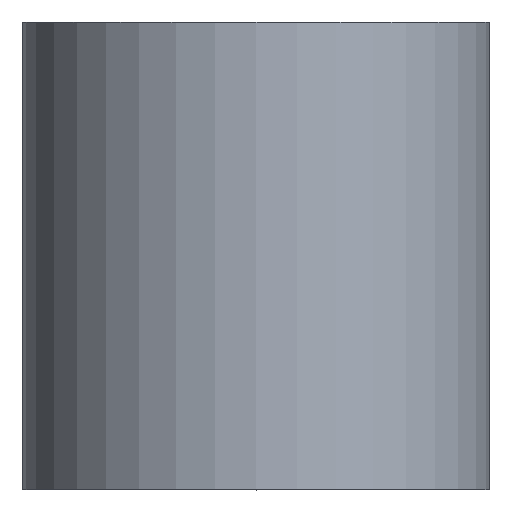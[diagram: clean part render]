
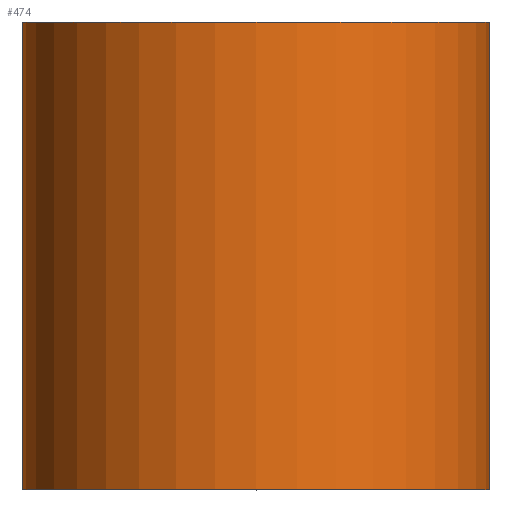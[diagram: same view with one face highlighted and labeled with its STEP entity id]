
A CAD part, top view. The second image highlights one B-rep face of the part: STEP entity #474.
In plain terms, the highlighted cylindrical face has radius 25 mm (diameter 50 mm), a partial arc.
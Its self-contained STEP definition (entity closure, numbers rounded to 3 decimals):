
#24 = LINE ( 'NONE', #859, #103 ) ;
#81 = DIRECTION ( 'NONE',  ( -1., 0., 0. ) ) ;
#103 = VECTOR ( 'NONE', #324, 1000. ) ;
#118 = VERTEX_POINT ( 'NONE', #901 ) ;
#144 = EDGE_CURVE ( 'NONE', #118, #301, #578, .T. ) ;
#154 = FACE_OUTER_BOUND ( 'NONE', #448, .T. ) ;
#165 = CARTESIAN_POINT ( 'NONE',  ( 0., -25., 0. ) ) ;
#220 = CARTESIAN_POINT ( 'NONE',  ( 0., 25., 0. ) ) ;
#279 = ORIENTED_EDGE ( 'NONE', *, *, #294, .T. ) ;
#294 = EDGE_CURVE ( 'NONE', #301, #595, #24, .T. ) ;
#295 = ORIENTED_EDGE ( 'NONE', *, *, #491, .F. ) ;
#300 = DIRECTION ( 'NONE',  ( -1., 0., 0. ) ) ;
#301 = VERTEX_POINT ( 'NONE', #615 ) ;
#321 = CARTESIAN_POINT ( 'NONE',  ( 25., 25., 0. ) ) ;
#324 = DIRECTION ( 'NONE',  ( 0., 1., 0. ) ) ;
#339 = AXIS2_PLACEMENT_3D ( 'NONE', #165, #671, #81 ) ;
#383 = CARTESIAN_POINT ( 'NONE',  ( 0., 0., 0. ) ) ;
#400 = VECTOR ( 'NONE', #804, 1000. ) ;
#411 = ORIENTED_EDGE ( 'NONE', *, *, #144, .T. ) ;
#448 = EDGE_LOOP ( 'NONE', ( #411, #279, #944, #295 ) ) ;
#455 = AXIS2_PLACEMENT_3D ( 'NONE', #383, #604, #508 ) ;
#474 = ADVANCED_FACE ( 'NONE', ( #154 ), #530, .T. ) ;
#491 = EDGE_CURVE ( 'NONE', #118, #668, #736, .T. ) ;
#508 = DIRECTION ( 'NONE',  ( -1., 0., 0. ) ) ;
#530 = CYLINDRICAL_SURFACE ( 'NONE', #455, 25. ) ;
#578 = CIRCLE ( 'NONE', #339, 25. ) ;
#595 = VERTEX_POINT ( 'NONE', #321 ) ;
#604 = DIRECTION ( 'NONE',  ( 0., 1., 0. ) ) ;
#615 = CARTESIAN_POINT ( 'NONE',  ( 25., -25., 0. ) ) ;
#622 = CARTESIAN_POINT ( 'NONE',  ( -25., 25., 0. ) ) ;
#668 = VERTEX_POINT ( 'NONE', #622 ) ;
#671 = DIRECTION ( 'NONE',  ( 0., 1., 0. ) ) ;
#689 = AXIS2_PLACEMENT_3D ( 'NONE', #220, #958, #300 ) ;
#736 = LINE ( 'NONE', #891, #400 ) ;
#737 = EDGE_CURVE ( 'NONE', #668, #595, #927, .T. ) ;
#804 = DIRECTION ( 'NONE',  ( 0., 1., 0. ) ) ;
#859 = CARTESIAN_POINT ( 'NONE',  ( 25., 0., 0. ) ) ;
#891 = CARTESIAN_POINT ( 'NONE',  ( -25., 0., 0. ) ) ;
#901 = CARTESIAN_POINT ( 'NONE',  ( -25., -25., 0. ) ) ;
#927 = CIRCLE ( 'NONE', #689, 25. ) ;
#944 = ORIENTED_EDGE ( 'NONE', *, *, #737, .F. ) ;
#958 = DIRECTION ( 'NONE',  ( 0., 1., 0. ) ) ;
